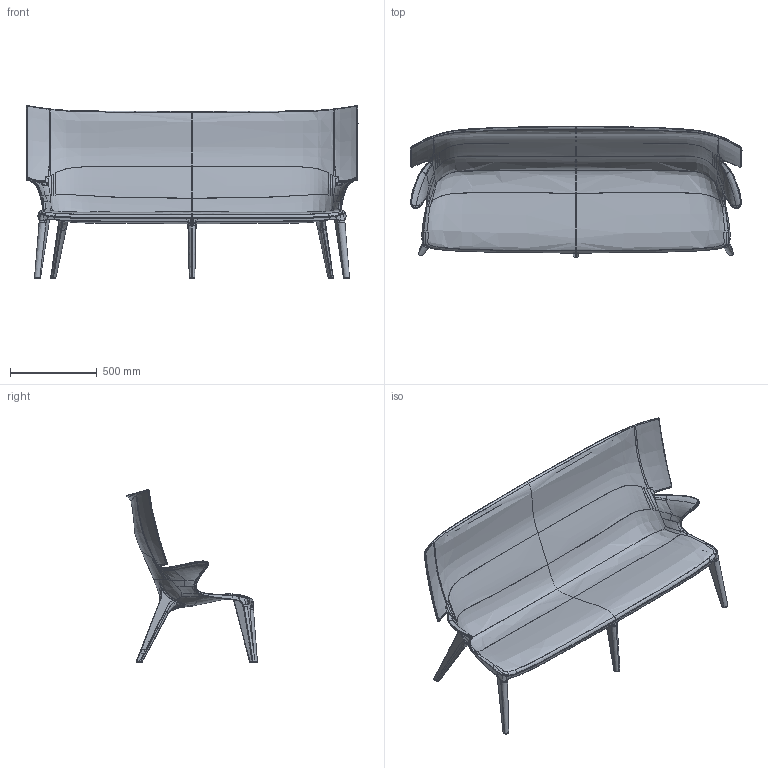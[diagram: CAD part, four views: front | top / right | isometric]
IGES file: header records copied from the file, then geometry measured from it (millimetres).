
Global section: file name: E:\Users\Stefano\3016\cliente\inviati\11__23-04-14\30190 3d pezzo 13.igs; native system: NX V8.5; preprocessor: SIEMENS PLM Software NX 8.5; date: 20140423.101211; units: millimetre
Bounding box: 1913.5 x 754.07 x 997.88 mm (x, y, z)
Surface area: 5067708.5 mm2 (no closed solid volume)
Topology: 0 solids, 0 shells, 1064 faces, 8226 edges, 8187 vertices
Faces by surface type: bspline 840, offset 168, extrusion 40, revolution 16
